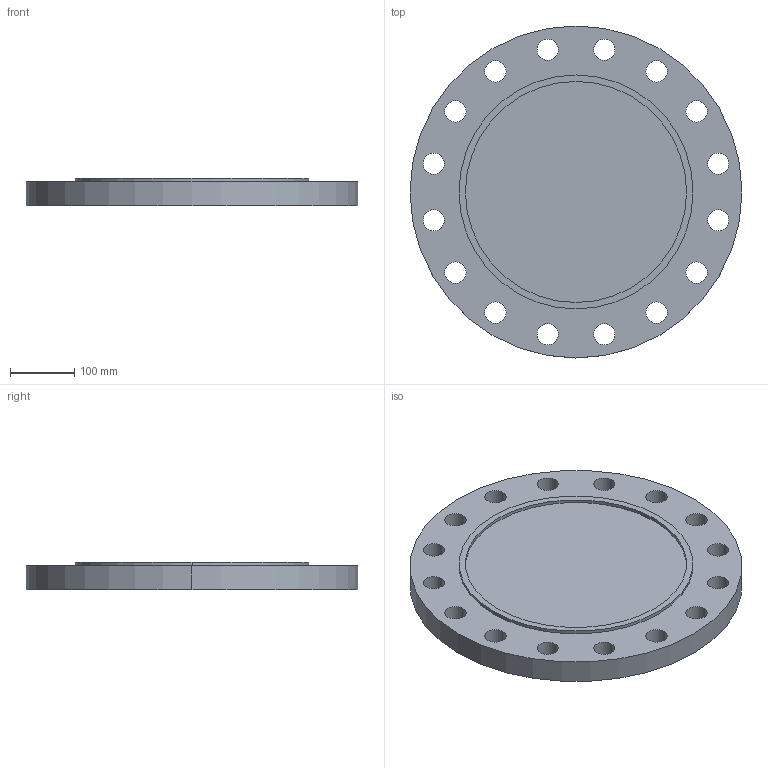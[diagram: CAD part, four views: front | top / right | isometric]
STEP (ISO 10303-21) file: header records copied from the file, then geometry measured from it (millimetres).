
FILE_DESCRIPTION (( 'STEP AP214' ), '1' );
FILE_NAME ('PN40 DN300 Type 05 - Type C Face.STEP', '2019-01-05T20:27:30', ( '' ), ( '' ), 'SwSTEP 2.0', 'SolidWorks 2019', '' );
FILE_SCHEMA (( 'AUTOMOTIVE_DESIGN' ));
Length unit declared in the file: millimetre
Products named in the file (1): PN40 DN300 Type 05 - Type C Face
Bounding box: 515 x 515 x 42 mm (x, y, z)
Volume: 7256479.8 mm3; surface area: 521571.9 mm2
Topology: 1 solids, 1 shells, 42 faces, 114 edges, 76 vertices
Faces by surface type: cylinder 38, plane 4
Entity records: 1472 total; most frequent: DIRECTION 276, CARTESIAN_POINT 233, ORIENTED_EDGE 228, AXIS2_PLACEMENT_3D 119, EDGE_CURVE 114, CIRCLE 76, VERTEX_POINT 76, EDGE_LOOP 76
